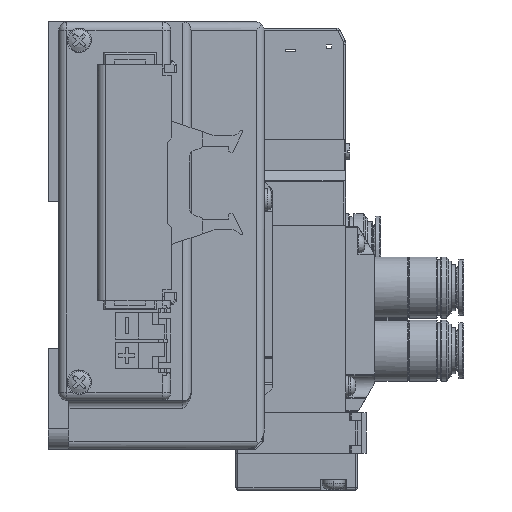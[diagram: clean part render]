
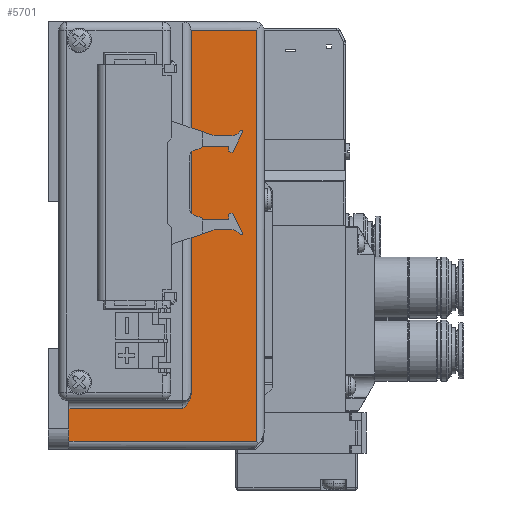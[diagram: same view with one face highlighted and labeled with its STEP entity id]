
A CAD part, left-side view. The second image highlights one B-rep face of the part: STEP entity #5701.
In plain terms, the highlighted planar face has unit normal (-1, 0, 0).
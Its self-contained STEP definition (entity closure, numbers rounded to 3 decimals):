
#5701=ADVANCED_FACE('',(#18474),#18473,.F.);
#18473=PLANE('',#31335);
#18474=FACE_OUTER_BOUND('',#31336,.T.);
#31332=CARTESIAN_POINT('',(19.5,-60.6,70.2));
#31333=DIRECTION('',(1.,0.,0.));
#31334=DIRECTION('',(0.,0.,-1.));
#31335=AXIS2_PLACEMENT_3D('',#31332,#31333,#31334);
#31336=EDGE_LOOP('',(#39678,#39679,#39680,#39681,#39682,#39683,#39684));
#39678=ORIENTED_EDGE('',*,*,#50595,.F.);
#39679=ORIENTED_EDGE('',*,*,#50262,.T.);
#39680=ORIENTED_EDGE('',*,*,#50593,.T.);
#39681=ORIENTED_EDGE('',*,*,#50122,.T.);
#39682=ORIENTED_EDGE('',*,*,#50339,.F.);
#39683=ORIENTED_EDGE('',*,*,#50341,.F.);
#39684=ORIENTED_EDGE('',*,*,#50316,.T.);
#50122=EDGE_CURVE('',#69348,#69349,#69350,.T.);
#50262=EDGE_CURVE('',#70302,#69404,#70315,.T.);
#50316=EDGE_CURVE('',#70672,#70665,#70673,.T.);
#50339=EDGE_CURVE('',#70828,#69349,#70829,.T.);
#50341=EDGE_CURVE('',#70672,#70828,#70841,.T.);
#50593=EDGE_CURVE('',#69404,#69348,#72495,.T.);
#50595=EDGE_CURVE('',#70302,#70665,#72507,.T.);
#69348=VERTEX_POINT('',#88867);
#69349=VERTEX_POINT('',#88868);
#69350=(BOUNDED_CURVE() B_SPLINE_CURVE(3,(#88869,#88870,#88871,#88872,#88873,#88874,#88875,#88876,#88877,#88878),.UNSPECIFIED.,.F.,.F.) B_SPLINE_CURVE_WITH_KNOTS((4,2,2,2,4),(0.,0.001,0.002,0.003,0.004),.UNSPECIFIED.) CURVE() GEOMETRIC_REPRESENTATION_ITEM() RATIONAL_B_SPLINE_CURVE((1.,1.,1.,1.,1.,1.,1.,1.,1.,1.)) REPRESENTATION_ITEM('') );
#69404=VERTEX_POINT('',#88910);
#70302=VERTEX_POINT('',#89434);
#70315=LINE('',#89441,#89442);
#70665=VERTEX_POINT('',#89653);
#70672=VERTEX_POINT('',#89657);
#70673=LINE('',#89658,#89659);
#70828=VERTEX_POINT('',#89757);
#70829=LINE('',#89758,#89759);
#70841=LINE('',#89765,#89766);
#72495=LINE('',#90723,#90724);
#72507=LINE('',#90729,#90730);
#88867=CARTESIAN_POINT('',(19.5,-40.,-29.336));
#88868=CARTESIAN_POINT('',(19.5,-38.,-32.8));
#88869=CARTESIAN_POINT('',(19.5,-40.,-29.336));
#88870=CARTESIAN_POINT('',(19.5,-40.,-29.683));
#88871=CARTESIAN_POINT('',(19.5,-39.934,-30.018));
#88872=CARTESIAN_POINT('',(19.5,-39.703,-30.669));
#88873=CARTESIAN_POINT('',(19.5,-39.543,-30.97));
#88874=CARTESIAN_POINT('',(19.5,-39.164,-31.539));
#88875=CARTESIAN_POINT('',(19.5,-38.945,-31.807));
#88876=CARTESIAN_POINT('',(19.5,-38.485,-32.315));
#88877=CARTESIAN_POINT('',(19.5,-38.241,-32.559));
#88878=CARTESIAN_POINT('',(19.5,-38.,-32.8));
#88910=CARTESIAN_POINT('',(19.5,-40.,60.2));
#89434=CARTESIAN_POINT('',(19.5,-56.,60.2));
#89441=CARTESIAN_POINT('',(19.5,-56.,60.2));
#89442=VECTOR('',#89443,16.);
#89443=DIRECTION('',(0.,1.,0.));
#89653=CARTESIAN_POINT('',(19.5,-56.,-40.8));
#89657=CARTESIAN_POINT('',(19.5,-10.,-40.8));
#89658=CARTESIAN_POINT('',(19.5,-10.,-40.8));
#89659=VECTOR('',#89660,46.);
#89660=DIRECTION('',(0.,-1.,0.));
#89757=CARTESIAN_POINT('',(19.5,-10.,-32.8));
#89758=CARTESIAN_POINT('',(19.5,-10.,-32.8));
#89759=VECTOR('',#89760,28.);
#89760=DIRECTION('',(0.,-1.,0.));
#89765=CARTESIAN_POINT('',(19.5,-10.,-40.8));
#89766=VECTOR('',#89767,8.);
#89767=DIRECTION('',(0.,0.,1.));
#90723=CARTESIAN_POINT('',(19.5,-40.,60.2));
#90724=VECTOR('',#90725,89.536);
#90725=DIRECTION('',(0.,0.,-1.));
#90729=CARTESIAN_POINT('',(19.5,-56.,60.2));
#90730=VECTOR('',#90731,101.);
#90731=DIRECTION('',(0.,0.,-1.));
